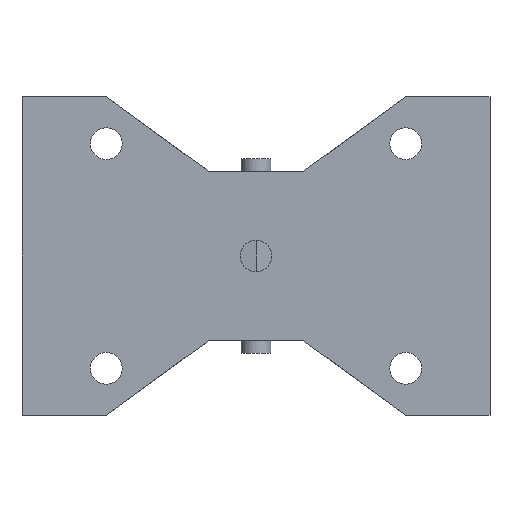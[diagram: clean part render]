
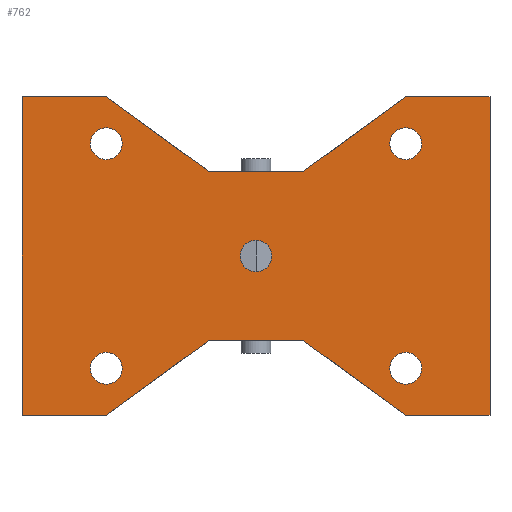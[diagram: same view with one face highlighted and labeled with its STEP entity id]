
A CAD part, front view. The second image highlights one B-rep face of the part: STEP entity #762.
In plain terms, the highlighted planar face has unit normal (0, -1, 0).
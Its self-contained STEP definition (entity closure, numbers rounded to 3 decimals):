
#1=DIRECTION('',(-0.809,0.,-0.588));
#2=VECTOR('',#1,34.004);
#3=CARTESIAN_POINT('',(-12.5,0.,-22.5));
#4=LINE('',#3,#2);
#5=DIRECTION('',(-1.,0.,0.));
#6=VECTOR('',#5,22.5);
#7=CARTESIAN_POINT('',(-40.,0.,-42.5));
#8=LINE('',#7,#6);
#9=DIRECTION('',(0.,0.,1.));
#10=VECTOR('',#9,85.);
#11=CARTESIAN_POINT('',(-62.5,0.,-42.5));
#12=LINE('',#11,#10);
#13=DIRECTION('',(1.,0.,0.));
#14=VECTOR('',#13,22.5);
#15=CARTESIAN_POINT('',(-62.5,0.,42.5));
#16=LINE('',#15,#14);
#17=DIRECTION('',(0.809,0.,-0.588));
#18=VECTOR('',#17,34.004);
#19=CARTESIAN_POINT('',(-40.,0.,42.5));
#20=LINE('',#19,#18);
#21=DIRECTION('',(1.,0.,0.));
#22=VECTOR('',#21,25.);
#23=CARTESIAN_POINT('',(-12.5,0.,22.5));
#24=LINE('',#23,#22);
#25=DIRECTION('',(0.809,0.,0.588));
#26=VECTOR('',#25,34.004);
#27=CARTESIAN_POINT('',(12.5,0.,22.5));
#28=LINE('',#27,#26);
#29=DIRECTION('',(1.,0.,0.));
#30=VECTOR('',#29,22.5);
#31=CARTESIAN_POINT('',(40.,0.,42.5));
#32=LINE('',#31,#30);
#33=DIRECTION('',(0.,0.,-1.));
#34=VECTOR('',#33,85.);
#35=CARTESIAN_POINT('',(62.5,0.,42.5));
#36=LINE('',#35,#34);
#37=DIRECTION('',(-1.,0.,0.));
#38=VECTOR('',#37,22.5);
#39=CARTESIAN_POINT('',(62.5,0.,-42.5));
#40=LINE('',#39,#38);
#41=DIRECTION('',(-0.809,0.,0.588));
#42=VECTOR('',#41,34.004);
#43=CARTESIAN_POINT('',(40.,0.,-42.5));
#44=LINE('',#43,#42);
#45=DIRECTION('',(-1.,0.,0.));
#46=VECTOR('',#45,25.);
#47=CARTESIAN_POINT('',(12.5,0.,-22.5));
#48=LINE('',#47,#46);
#49=CARTESIAN_POINT('',(40.,0.,-30.));
#50=DIRECTION('',(0.,1.,0.));
#51=DIRECTION('',(1.,0.,0.));
#52=AXIS2_PLACEMENT_3D('',#49,#50,#51);
#54=CARTESIAN_POINT('',(40.,0.,-30.));
#55=DIRECTION('',(0.,1.,0.));
#56=DIRECTION('',(-1.,0.,0.));
#57=AXIS2_PLACEMENT_3D('',#54,#55,#56);
#59=CARTESIAN_POINT('',(0.,0.,0.));
#60=DIRECTION('',(0.,1.,0.));
#61=DIRECTION('',(1.,0.,0.));
#62=AXIS2_PLACEMENT_3D('',#59,#60,#61);
#64=CARTESIAN_POINT('',(0.,0.,0.));
#65=DIRECTION('',(0.,1.,0.));
#66=DIRECTION('',(-1.,0.,0.));
#67=AXIS2_PLACEMENT_3D('',#64,#65,#66);
#69=CARTESIAN_POINT('',(40.,0.,30.));
#70=DIRECTION('',(0.,1.,0.));
#71=DIRECTION('',(1.,0.,0.));
#72=AXIS2_PLACEMENT_3D('',#69,#70,#71);
#74=CARTESIAN_POINT('',(40.,0.,30.));
#75=DIRECTION('',(0.,1.,0.));
#76=DIRECTION('',(-1.,0.,0.));
#77=AXIS2_PLACEMENT_3D('',#74,#75,#76);
#79=CARTESIAN_POINT('',(-40.,0.,-30.));
#80=DIRECTION('',(0.,1.,0.));
#81=DIRECTION('',(1.,0.,0.));
#82=AXIS2_PLACEMENT_3D('',#79,#80,#81);
#84=CARTESIAN_POINT('',(-40.,0.,-30.));
#85=DIRECTION('',(0.,1.,0.));
#86=DIRECTION('',(-1.,0.,0.));
#87=AXIS2_PLACEMENT_3D('',#84,#85,#86);
#89=CARTESIAN_POINT('',(-40.,0.,30.));
#90=DIRECTION('',(0.,1.,0.));
#91=DIRECTION('',(1.,0.,0.));
#92=AXIS2_PLACEMENT_3D('',#89,#90,#91);
#94=CARTESIAN_POINT('',(-40.,0.,30.));
#95=DIRECTION('',(0.,1.,0.));
#96=DIRECTION('',(-1.,0.,0.));
#97=AXIS2_PLACEMENT_3D('',#94,#95,#96);
#533=CARTESIAN_POINT('',(-12.5,0.,-22.5));
#534=CARTESIAN_POINT('',(-40.,0.,-42.5));
#535=VERTEX_POINT('',#533);
#536=VERTEX_POINT('',#534);
#537=CARTESIAN_POINT('',(-62.5,0.,-42.5));
#538=VERTEX_POINT('',#537);
#539=CARTESIAN_POINT('',(-62.5,0.,42.5));
#540=VERTEX_POINT('',#539);
#541=CARTESIAN_POINT('',(-40.,0.,42.5));
#542=VERTEX_POINT('',#541);
#543=CARTESIAN_POINT('',(-12.5,0.,22.5));
#544=VERTEX_POINT('',#543);
#545=CARTESIAN_POINT('',(12.5,0.,22.5));
#546=VERTEX_POINT('',#545);
#547=CARTESIAN_POINT('',(40.,0.,42.5));
#548=VERTEX_POINT('',#547);
#549=CARTESIAN_POINT('',(62.5,0.,42.5));
#550=VERTEX_POINT('',#549);
#551=CARTESIAN_POINT('',(62.5,0.,-42.5));
#552=VERTEX_POINT('',#551);
#553=CARTESIAN_POINT('',(40.,0.,-42.5));
#554=VERTEX_POINT('',#553);
#555=CARTESIAN_POINT('',(12.5,0.,-22.5));
#556=VERTEX_POINT('',#555);
#661=CARTESIAN_POINT('',(44.25,0.,-30.));
#662=CARTESIAN_POINT('',(35.75,0.,-30.));
#663=VERTEX_POINT('',#661);
#664=VERTEX_POINT('',#662);
#665=CARTESIAN_POINT('',(4.25,0.,0.));
#666=CARTESIAN_POINT('',(-4.25,0.,0.));
#667=VERTEX_POINT('',#665);
#668=VERTEX_POINT('',#666);
#669=CARTESIAN_POINT('',(44.25,0.,30.));
#670=CARTESIAN_POINT('',(35.75,0.,30.));
#671=VERTEX_POINT('',#669);
#672=VERTEX_POINT('',#670);
#673=CARTESIAN_POINT('',(-35.75,0.,-30.));
#674=CARTESIAN_POINT('',(-44.25,0.,-30.));
#675=VERTEX_POINT('',#673);
#676=VERTEX_POINT('',#674);
#677=CARTESIAN_POINT('',(-35.75,0.,30.));
#678=CARTESIAN_POINT('',(-44.25,0.,30.));
#679=VERTEX_POINT('',#677);
#680=VERTEX_POINT('',#678);
#701=CARTESIAN_POINT('',(0.,0.,0.));
#702=DIRECTION('',(0.,1.,0.));
#703=DIRECTION('',(1.,0.,0.));
#704=AXIS2_PLACEMENT_3D('',#701,#702,#703);
#705=PLANE('',#704);
#707=ORIENTED_EDGE('',*,*,#706,.T.);
#709=ORIENTED_EDGE('',*,*,#708,.T.);
#711=ORIENTED_EDGE('',*,*,#710,.T.);
#713=ORIENTED_EDGE('',*,*,#712,.T.);
#715=ORIENTED_EDGE('',*,*,#714,.T.);
#717=ORIENTED_EDGE('',*,*,#716,.T.);
#719=ORIENTED_EDGE('',*,*,#718,.T.);
#721=ORIENTED_EDGE('',*,*,#720,.T.);
#723=ORIENTED_EDGE('',*,*,#722,.T.);
#725=ORIENTED_EDGE('',*,*,#724,.T.);
#727=ORIENTED_EDGE('',*,*,#726,.T.);
#729=ORIENTED_EDGE('',*,*,#728,.T.);
#730=EDGE_LOOP('',(#707,#709,#711,#713,#715,#717,#719,#721,#723,#725,#727,
#729));
#731=FACE_OUTER_BOUND('',#730,.F.);
#733=ORIENTED_EDGE('',*,*,#732,.F.);
#735=ORIENTED_EDGE('',*,*,#734,.F.);
#736=EDGE_LOOP('',(#733,#735));
#737=FACE_BOUND('',#736,.F.);
#739=ORIENTED_EDGE('',*,*,#738,.F.);
#741=ORIENTED_EDGE('',*,*,#740,.F.);
#742=EDGE_LOOP('',(#739,#741));
#743=FACE_BOUND('',#742,.F.);
#745=ORIENTED_EDGE('',*,*,#744,.F.);
#747=ORIENTED_EDGE('',*,*,#746,.F.);
#748=EDGE_LOOP('',(#745,#747));
#749=FACE_BOUND('',#748,.F.);
#751=ORIENTED_EDGE('',*,*,#750,.F.);
#753=ORIENTED_EDGE('',*,*,#752,.F.);
#754=EDGE_LOOP('',(#751,#753));
#755=FACE_BOUND('',#754,.F.);
#757=ORIENTED_EDGE('',*,*,#756,.F.);
#759=ORIENTED_EDGE('',*,*,#758,.F.);
#760=EDGE_LOOP('',(#757,#759));
#761=FACE_BOUND('',#760,.F.);
#762=ADVANCED_FACE('',(#731,#737,#743,#749,#755,#761),#705,.F.);
#53=CIRCLE('',#52,4.25);
#58=CIRCLE('',#57,4.25);
#63=CIRCLE('',#62,4.25);
#68=CIRCLE('',#67,4.25);
#73=CIRCLE('',#72,4.25);
#78=CIRCLE('',#77,4.25);
#83=CIRCLE('',#82,4.25);
#88=CIRCLE('',#87,4.25);
#93=CIRCLE('',#92,4.25);
#98=CIRCLE('',#97,4.25);
#706=EDGE_CURVE('',#535,#536,#4,.T.);
#708=EDGE_CURVE('',#536,#538,#8,.T.);
#710=EDGE_CURVE('',#538,#540,#12,.T.);
#712=EDGE_CURVE('',#540,#542,#16,.T.);
#714=EDGE_CURVE('',#542,#544,#20,.T.);
#716=EDGE_CURVE('',#544,#546,#24,.T.);
#718=EDGE_CURVE('',#546,#548,#28,.T.);
#720=EDGE_CURVE('',#548,#550,#32,.T.);
#722=EDGE_CURVE('',#550,#552,#36,.T.);
#724=EDGE_CURVE('',#552,#554,#40,.T.);
#726=EDGE_CURVE('',#554,#556,#44,.T.);
#728=EDGE_CURVE('',#556,#535,#48,.T.);
#732=EDGE_CURVE('',#663,#664,#53,.T.);
#734=EDGE_CURVE('',#664,#663,#58,.T.);
#738=EDGE_CURVE('',#667,#668,#63,.T.);
#740=EDGE_CURVE('',#668,#667,#68,.T.);
#744=EDGE_CURVE('',#671,#672,#73,.T.);
#746=EDGE_CURVE('',#672,#671,#78,.T.);
#750=EDGE_CURVE('',#675,#676,#83,.T.);
#752=EDGE_CURVE('',#676,#675,#88,.T.);
#756=EDGE_CURVE('',#679,#680,#93,.T.);
#758=EDGE_CURVE('',#680,#679,#98,.T.);
